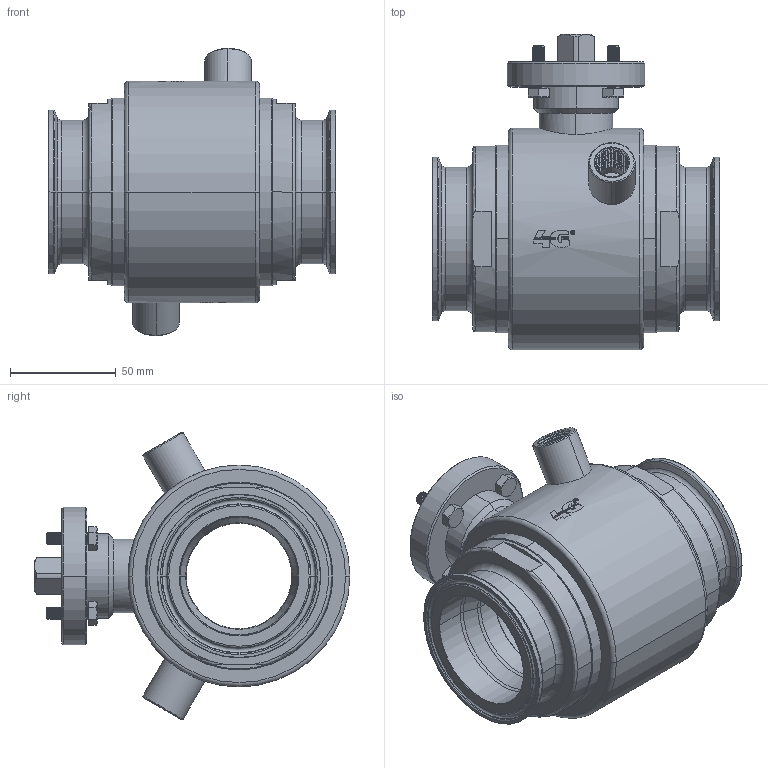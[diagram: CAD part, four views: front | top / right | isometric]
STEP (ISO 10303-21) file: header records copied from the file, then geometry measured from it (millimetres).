
FILE_DESCRIPTION((''),'2;1');
FILE_NAME('103030C63810_SW0001','2025-03-21T10:29:04',('tecnico2'),('CDM Tecnoconsulting'),'CREO PARAMETRIC BY PTC INC, 2024063','CREO PARAMETRIC BY PTC INC, 2024063','');
FILE_SCHEMA(('CONFIG_CONTROL_DESIGN','SHAPE_APPEARANCE_LAYERS_GROUPS'));
Products named in the file (1): 103030C63810_SW0001
Bounding box: 136 x 149.5 x 136.07 mm (x, y, z)
Volume: 559187 mm3; surface area: 200414.4 mm2
Topology: 1 solids, 1 shells, 1445 faces, 3966 edges, 2552 vertices
Faces by surface type: cylinder 454, plane 436, bspline 189, extrusion 168, cone 134, torus 60, sphere 4
Entity records: 144904 total; most frequent: CARTESIAN_POINT 99365, ORIENTED_EDGE 7916, DIRECTION 5237, PRESENTATION_STYLE_ASSIGNMENT 3999, STYLED_ITEM 3959, CURVE_STYLE 3958, EDGE_CURVE 3958, VERTEX_POINT 2552
